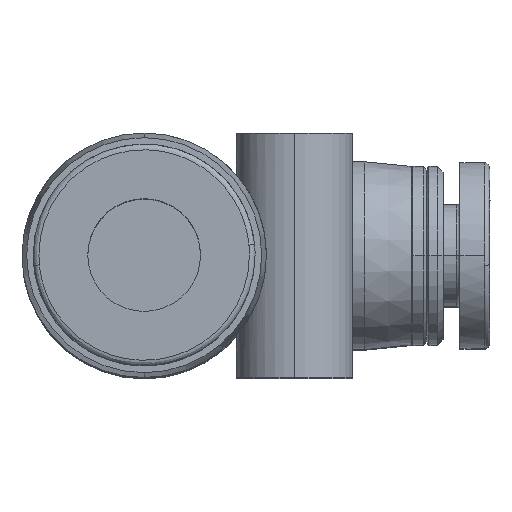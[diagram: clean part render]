
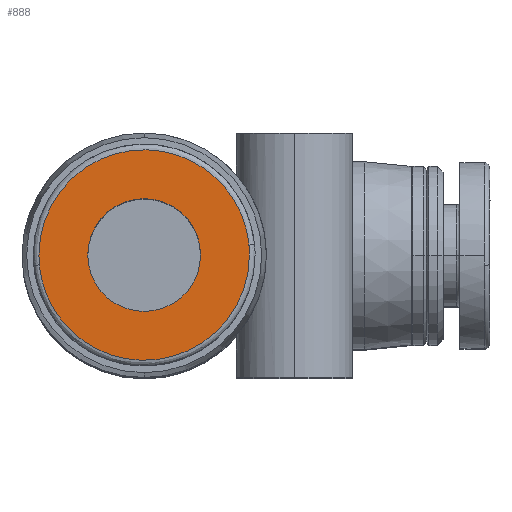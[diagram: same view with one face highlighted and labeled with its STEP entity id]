
A CAD part, top view. The second image highlights one B-rep face of the part: STEP entity #888.
In plain terms, the highlighted planar face has unit normal (0, 0, 1).
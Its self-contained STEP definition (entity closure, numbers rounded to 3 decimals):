
#262 = VERTEX_POINT ( 'NONE', #3822 ) ;
#301 = VERTEX_POINT ( 'NONE', #6762 ) ;
#517 = CARTESIAN_POINT ( 'NONE',  ( 4.616, 10.708, 30.05 ) ) ;
#617 = VERTEX_POINT ( 'NONE', #6662 ) ;
#742 = CARTESIAN_POINT ( 'NONE',  ( -6.1, 6.1, 30.05 ) ) ;
#745 = ORIENTED_EDGE ( 'NONE', *, *, #3835, .F. ) ;
#888 = ADVANCED_FACE ( '42', ( #5686, #1288 ), #1574, .T. ) ;
#1195 = AXIS2_PLACEMENT_3D ( 'NONE', #6477, #3087, #7044 ) ;
#1236 = CIRCLE ( 'NONE', #1195, 3. ) ;
#1271 = CARTESIAN_POINT ( 'NONE',  ( 3., 0., 30.05 ) ) ;
#1278 = EDGE_CURVE ( 'NONE', #617, #301, #7071, .T. ) ;
#1288 = FACE_OUTER_BOUND ( 'NONE', #4381, .T. ) ;
#1344 = CARTESIAN_POINT ( 'NONE',  ( 5.575, 0.525, 30.05 ) ) ;
#1574 = PLANE ( 'NONE',  #1982 ) ;
#1874 = EDGE_LOOP ( 'NONE', ( #4780, #5559 ) ) ;
#1877 = ORIENTED_EDGE ( 'NONE', *, *, #1278, .F. ) ;
#1900 =( BOUNDED_CURVE ( )  B_SPLINE_CURVE ( 3, ( #1344, #3075, #2516, #6488 ),
 .UNSPECIFIED., .F., .F. ) 
 B_SPLINE_CURVE_WITH_KNOTS ( ( 4, 4 ),
 ( 0.97, 1. ),
 .UNSPECIFIED. ) 
 CURVE ( )  GEOMETRIC_REPRESENTATION_ITEM ( )  RATIONAL_B_SPLINE_CURVE ( ( 1., 0.999, 0.999, 1. ) ) 
 REPRESENTATION_ITEM ( '' )  );
#1982 = AXIS2_PLACEMENT_3D ( 'NONE', #742, #5533, #5809 ) ;
#2014 =( BOUNDED_CURVE ( )  B_SPLINE_CURVE ( 3, ( #5681, #6227, #7371, #3995 ),
 .UNSPECIFIED., .F., .F. ) 
 B_SPLINE_CURVE_WITH_KNOTS ( ( 4, 4 ),
 ( 0., 0.97 ),
 .UNSPECIFIED. ) 
 CURVE ( )  GEOMETRIC_REPRESENTATION_ITEM ( )  RATIONAL_B_SPLINE_CURVE ( ( 1., 0.365, 0.365, 1. ) ) 
 REPRESENTATION_ITEM ( '' )  );
#2147 = CARTESIAN_POINT ( 'NONE',  ( 0., 0., 30.05 ) ) ;
#2516 = CARTESIAN_POINT ( 'NONE',  ( 5.6, 0.175, 30.05 ) ) ;
#2667 = ORIENTED_EDGE ( 'NONE', *, *, #4993, .F. ) ;
#2732 = DIRECTION ( 'NONE',  ( 1., 0., 0. ) ) ;
#2890 = CARTESIAN_POINT ( 'NONE',  ( -3., 0., 30.05 ) ) ;
#2952 = EDGE_CURVE ( 'NONE', #6062, #4507, #6966, .T. ) ;
#3075 = CARTESIAN_POINT ( 'NONE',  ( 5.592, 0.351, 30.05 ) ) ;
#3087 = DIRECTION ( 'NONE',  ( 0., 0., -1. ) ) ;
#3604 = CARTESIAN_POINT ( 'NONE',  ( 5.575, 0.525, 30.05 ) ) ;
#3822 = CARTESIAN_POINT ( 'NONE',  ( 5.6, 0., 30.05 ) ) ;
#3835 = EDGE_CURVE ( 'NONE', #301, #7279, #6426, .T. ) ;
#3995 = CARTESIAN_POINT ( 'NONE',  ( -5.575, -0.525, 30.05 ) ) ;
#4381 = EDGE_LOOP ( 'NONE', ( #5931, #2667, #745, #1877 ) ) ;
#4473 = CARTESIAN_POINT ( 'NONE',  ( -5.6, 10.228, 30.05 ) ) ;
#4505 = CARTESIAN_POINT ( 'NONE',  ( 5.575, 0.525, 30.05 ) ) ;
#4507 = VERTEX_POINT ( 'NONE', #2890 ) ;
#4780 = ORIENTED_EDGE ( 'NONE', *, *, #2952, .T. ) ;
#4993 = EDGE_CURVE ( 'NONE', #7279, #262, #1900, .T. ) ;
#5059 = CARTESIAN_POINT ( 'NONE',  ( -5.6, 0., 30.05 ) ) ;
#5421 = EDGE_CURVE ( 'NONE', #4507, #6062, #1236, .T. ) ;
#5533 = DIRECTION ( 'NONE',  ( 0., 0., 1. ) ) ;
#5559 = ORIENTED_EDGE ( 'NONE', *, *, #5421, .T. ) ;
#5681 = CARTESIAN_POINT ( 'NONE',  ( 5.6, 0., 30.05 ) ) ;
#5686 = FACE_BOUND ( 'NONE', #1874, .T. ) ;
#5809 = DIRECTION ( 'NONE',  ( 1., 0., 0. ) ) ;
#5887 = EDGE_CURVE ( 'NONE', #262, #617, #2014, .T. ) ;
#5931 = ORIENTED_EDGE ( 'NONE', *, *, #5887, .F. ) ;
#6062 = VERTEX_POINT ( 'NONE', #1271 ) ;
#6138 = DIRECTION ( 'NONE',  ( 0., 0., -1. ) ) ;
#6227 = CARTESIAN_POINT ( 'NONE',  ( 5.6, -10.228, 30.05 ) ) ;
#6348 = AXIS2_PLACEMENT_3D ( 'NONE', #2147, #6138, #2732 ) ;
#6426 =( BOUNDED_CURVE ( )  B_SPLINE_CURVE ( 3, ( #5059, #4473, #517, #4505 ),
 .UNSPECIFIED., .F., .T. ) 
 B_SPLINE_CURVE_WITH_KNOTS ( ( 4, 4 ),
 ( 0., 0.97 ),
 .UNSPECIFIED. ) 
 CURVE ( )  GEOMETRIC_REPRESENTATION_ITEM ( )  RATIONAL_B_SPLINE_CURVE ( ( 1., 0.365, 0.365, 1. ) ) 
 REPRESENTATION_ITEM ( '' )  );
#6477 = CARTESIAN_POINT ( 'NONE',  ( 0., 0., 30.05 ) ) ;
#6488 = CARTESIAN_POINT ( 'NONE',  ( 5.6, 0., 30.05 ) ) ;
#6662 = CARTESIAN_POINT ( 'NONE',  ( -5.575, -0.525, 30.05 ) ) ;
#6670 = CARTESIAN_POINT ( 'NONE',  ( -5.592, -0.351, 30.05 ) ) ;
#6762 = CARTESIAN_POINT ( 'NONE',  ( -5.6, 0., 30.05 ) ) ;
#6899 = CARTESIAN_POINT ( 'NONE',  ( -5.575, -0.525, 30.05 ) ) ;
#6966 = CIRCLE ( 'NONE', #6348, 3. ) ;
#7044 = DIRECTION ( 'NONE',  ( 1., 0., 0. ) ) ;
#7071 =( BOUNDED_CURVE ( )  B_SPLINE_CURVE ( 3, ( #6899, #6670, #7235, #7314 ),
 .UNSPECIFIED., .F., .T. ) 
 B_SPLINE_CURVE_WITH_KNOTS ( ( 4, 4 ),
 ( 0.97, 1. ),
 .UNSPECIFIED. ) 
 CURVE ( )  GEOMETRIC_REPRESENTATION_ITEM ( )  RATIONAL_B_SPLINE_CURVE ( ( 1., 0.999, 0.999, 1. ) ) 
 REPRESENTATION_ITEM ( '' )  );
#7235 = CARTESIAN_POINT ( 'NONE',  ( -5.6, -0.175, 30.05 ) ) ;
#7279 = VERTEX_POINT ( 'NONE', #3604 ) ;
#7314 = CARTESIAN_POINT ( 'NONE',  ( -5.6, 0., 30.05 ) ) ;
#7371 = CARTESIAN_POINT ( 'NONE',  ( -4.616, -10.708, 30.05 ) ) ;
